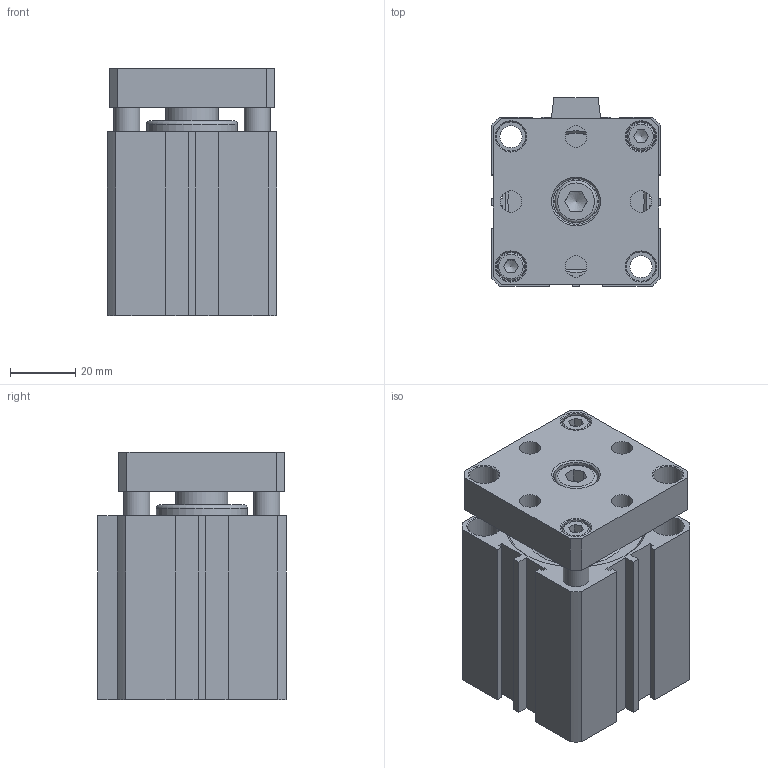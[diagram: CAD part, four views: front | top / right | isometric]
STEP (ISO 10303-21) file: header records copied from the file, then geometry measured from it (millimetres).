
FILE_DESCRIPTION((''),'2;1');
FILE_NAME('I:\3D電子目錄\氣缸\JTD\JTD\JTD40\JTD40x30.stp','2007-08-14T18:52:28',('Administrator'),(''),'Autodesk Inventor 11','Autodesk Inventor 11','');
FILE_SCHEMA(('AUTOMOTIVE_DESIGN { 1 0 10303 214 1 1 1 1 }'));
Length unit declared in the file: millimetre
Products named in the file (5): JTD40; R 形環 42; ISO 4762 M8 x 12; ISO 4762 M5 x 16
Assembly tree (5 placements, depth 2):
  JTD40
    JTD40
    R 形環 42
    ISO 4762 M8 x 12
    ISO 4762 M5 x 16  x2
Bounding box: 52 x 58 x 76.1 mm (x, y, z)
Volume: 158846.7 mm3; surface area: 42957.2 mm2
Topology: 5 solids, 5 shells, 195 faces, 448 edges, 290 vertices
Faces by surface type: plane 113, cylinder 43, cone 18, bspline 16, torus 5
Full cylindrical faces by diameter (mm): 1.9 x2, 2.2 x2, 5 x2, 6.8 x2, 8 x5, 8.5 x2, 9 x2, 9.5 x2, 10 x2, 13 x1, 16 x1, 28 x1, 29 x1, 42 x4, 44.5 x2
Entity records: 5157 total; most frequent: CARTESIAN_POINT 1103, DIRECTION 814, ORIENTED_EDGE 704, EDGE_CURVE 352, AXIS2_PLACEMENT_3D 299, EDGE_LOOP 294, VERTEX_POINT 266, VECTOR 216
